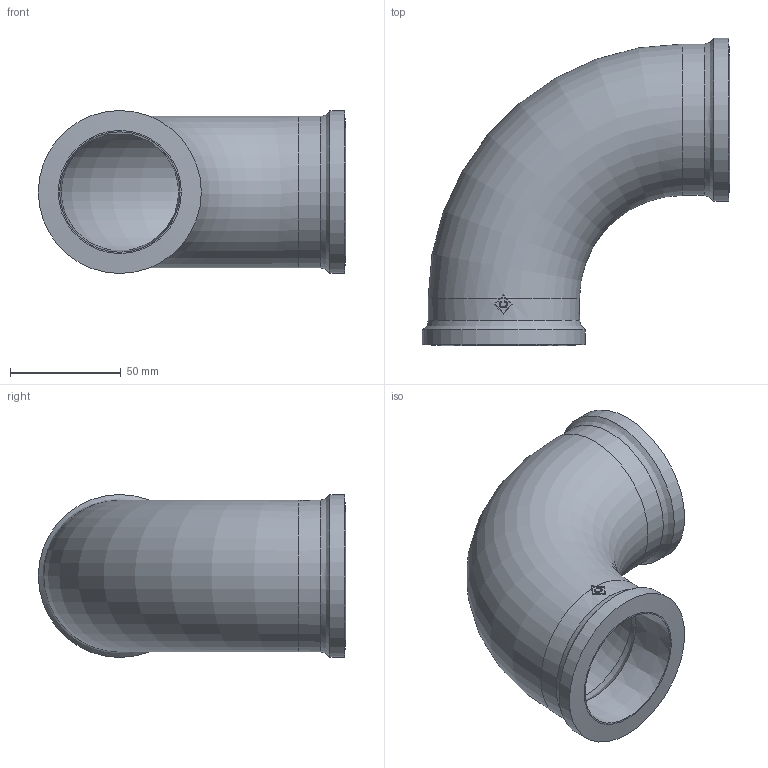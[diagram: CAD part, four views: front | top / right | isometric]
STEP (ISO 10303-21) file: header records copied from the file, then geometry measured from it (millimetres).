
FILE_DESCRIPTION((''),'2;1');
FILE_NAME('P:\Fastrack\53909_CRANE\Crane\Fig.193 Bend\New 2.00 inch\193-2.00.stp','2009-09-17T09:59:22',('btaylor'),(''),'Autodesk Inventor 2008','Autodesk Inventor 2008','');
FILE_SCHEMA(('AUTOMOTIVE_DESIGN { 1 0 10303 214 1 1 1 1 }'));
Length unit declared in the file: millimetre
Products named in the file (1): 193-2.00
Bounding box: 138.8 x 138.8 x 73.6 mm (x, y, z)
Volume: 183332.4 mm3; surface area: 71954.9 mm2
Topology: 1 solids, 1 shells, 39 faces, 105 edges, 69 vertices
Faces by surface type: plane 12, bspline 12, cylinder 7, torus 4, cone 4
Full cylindrical faces by diameter (mm): 68.4 x2, 73.6 x2
Entity records: 2683 total; most frequent: CARTESIAN_POINT 1787, ORIENTED_EDGE 178, DIRECTION 160, EDGE_CURVE 89, AXIS2_PLACEMENT_3D 71, VERTEX_POINT 65, EDGE_LOOP 54, FACE_OUTER_BOUND 39
